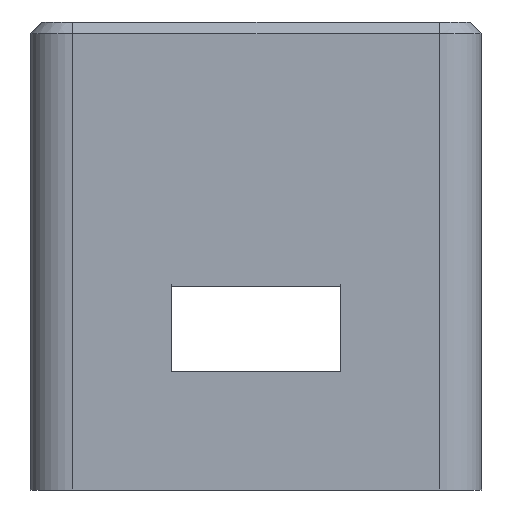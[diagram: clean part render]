
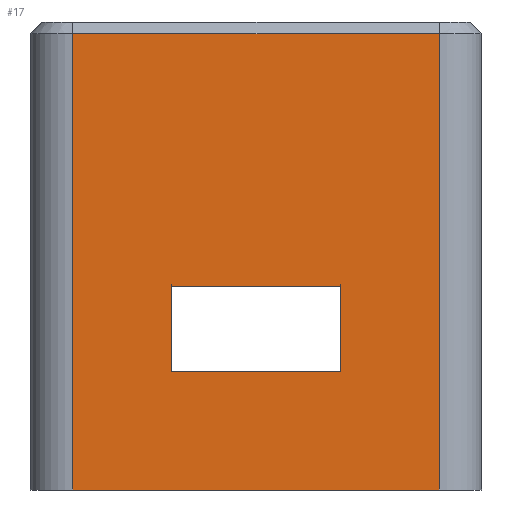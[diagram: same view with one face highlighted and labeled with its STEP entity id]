
A CAD part, left-side view. The second image highlights one B-rep face of the part: STEP entity #17.
In plain terms, the highlighted planar face has unit normal (-1, 0, 0).
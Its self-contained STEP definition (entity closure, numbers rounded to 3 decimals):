
#17 = ADVANCED_FACE('',(#18,#137),#32,.T.);
#18 = FACE_BOUND('',#19,.T.);
#19 = EDGE_LOOP('',(#20,#55,#83,#111));
#20 = ORIENTED_EDGE('',*,*,#21,.T.);
#21 = EDGE_CURVE('',#22,#24,#26,.T.);
#22 = VERTEX_POINT('',#23);
#23 = CARTESIAN_POINT('',(-80.,-15.6,16.2));
#24 = VERTEX_POINT('',#25);
#25 = CARTESIAN_POINT('',(-80.,-15.6,55.));
#26 = SURFACE_CURVE('',#27,(#31,#43),.PCURVE_S1.);
#27 = LINE('',#28,#29);
#28 = CARTESIAN_POINT('',(-80.,-15.6,16.2));
#29 = VECTOR('',#30,1.);
#30 = DIRECTION('',(0.,0.,1.));
#31 = PCURVE('',#32,#37);
#32 = PLANE('',#33);
#33 = AXIS2_PLACEMENT_3D('',#34,#35,#36);
#34 = CARTESIAN_POINT('',(-80.,-15.6,16.2));
#35 = DIRECTION('',(-1.,0.,0.));
#36 = DIRECTION('',(0.,1.,0.));
#37 = DEFINITIONAL_REPRESENTATION('',(#38),#42);
#38 = LINE('',#39,#40);
#39 = CARTESIAN_POINT('',(0.,0.));
#40 = VECTOR('',#41,1.);
#41 = DIRECTION('',(0.,-1.));
#42 = ( GEOMETRIC_REPRESENTATION_CONTEXT(2) 
PARAMETRIC_REPRESENTATION_CONTEXT() REPRESENTATION_CONTEXT('2D SPACE',''
  ) );
#43 = PCURVE('',#44,#49);
#44 = CYLINDRICAL_SURFACE('',#45,3.6);
#45 = AXIS2_PLACEMENT_3D('',#46,#47,#48);
#46 = CARTESIAN_POINT('',(-76.4,-15.6,16.2));
#47 = DIRECTION('',(-0.,-0.,-1.));
#48 = DIRECTION('',(1.,0.,0.));
#49 = DEFINITIONAL_REPRESENTATION('',(#50),#54);
#50 = LINE('',#51,#52);
#51 = CARTESIAN_POINT('',(-3.142,0.));
#52 = VECTOR('',#53,1.);
#53 = DIRECTION('',(-0.,-1.));
#54 = ( GEOMETRIC_REPRESENTATION_CONTEXT(2) 
PARAMETRIC_REPRESENTATION_CONTEXT() REPRESENTATION_CONTEXT('2D SPACE',''
  ) );
#55 = ORIENTED_EDGE('',*,*,#56,.T.);
#56 = EDGE_CURVE('',#24,#57,#59,.T.);
#57 = VERTEX_POINT('',#58);
#58 = CARTESIAN_POINT('',(-80.,15.6,55.));
#59 = SURFACE_CURVE('',#60,(#64,#71),.PCURVE_S1.);
#60 = LINE('',#61,#62);
#61 = CARTESIAN_POINT('',(-80.,-15.6,55.));
#62 = VECTOR('',#63,1.);
#63 = DIRECTION('',(0.,1.,0.));
#64 = PCURVE('',#32,#65);
#65 = DEFINITIONAL_REPRESENTATION('',(#66),#70);
#66 = LINE('',#67,#68);
#67 = CARTESIAN_POINT('',(0.,-38.8));
#68 = VECTOR('',#69,1.);
#69 = DIRECTION('',(1.,0.));
#70 = ( GEOMETRIC_REPRESENTATION_CONTEXT(2) 
PARAMETRIC_REPRESENTATION_CONTEXT() REPRESENTATION_CONTEXT('2D SPACE',''
  ) );
#71 = PCURVE('',#72,#77);
#72 = PLANE('',#73);
#73 = AXIS2_PLACEMENT_3D('',#74,#75,#76);
#74 = CARTESIAN_POINT('',(-79.5,-15.6,55.5));
#75 = DIRECTION('',(-0.707,0.,0.707));
#76 = DIRECTION('',(-0.,-1.,-0.));
#77 = DEFINITIONAL_REPRESENTATION('',(#78),#82);
#78 = LINE('',#79,#80);
#79 = CARTESIAN_POINT('',(-0.,-0.707));
#80 = VECTOR('',#81,1.);
#81 = DIRECTION('',(-1.,0.));
#82 = ( GEOMETRIC_REPRESENTATION_CONTEXT(2) 
PARAMETRIC_REPRESENTATION_CONTEXT() REPRESENTATION_CONTEXT('2D SPACE',''
  ) );
#83 = ORIENTED_EDGE('',*,*,#84,.F.);
#84 = EDGE_CURVE('',#85,#57,#87,.T.);
#85 = VERTEX_POINT('',#86);
#86 = CARTESIAN_POINT('',(-80.,15.6,16.2));
#87 = SURFACE_CURVE('',#88,(#92,#99),.PCURVE_S1.);
#88 = LINE('',#89,#90);
#89 = CARTESIAN_POINT('',(-80.,15.6,16.2));
#90 = VECTOR('',#91,1.);
#91 = DIRECTION('',(0.,0.,1.));
#92 = PCURVE('',#32,#93);
#93 = DEFINITIONAL_REPRESENTATION('',(#94),#98);
#94 = LINE('',#95,#96);
#95 = CARTESIAN_POINT('',(31.2,0.));
#96 = VECTOR('',#97,1.);
#97 = DIRECTION('',(0.,-1.));
#98 = ( GEOMETRIC_REPRESENTATION_CONTEXT(2) 
PARAMETRIC_REPRESENTATION_CONTEXT() REPRESENTATION_CONTEXT('2D SPACE',''
  ) );
#99 = PCURVE('',#100,#105);
#100 = CYLINDRICAL_SURFACE('',#101,3.6);
#101 = AXIS2_PLACEMENT_3D('',#102,#103,#104);
#102 = CARTESIAN_POINT('',(-76.4,15.6,16.2));
#103 = DIRECTION('',(-0.,-0.,-1.));
#104 = DIRECTION('',(1.,0.,0.));
#105 = DEFINITIONAL_REPRESENTATION('',(#106),#110);
#106 = LINE('',#107,#108);
#107 = CARTESIAN_POINT('',(-3.142,0.));
#108 = VECTOR('',#109,1.);
#109 = DIRECTION('',(-0.,-1.));
#110 = ( GEOMETRIC_REPRESENTATION_CONTEXT(2) 
PARAMETRIC_REPRESENTATION_CONTEXT() REPRESENTATION_CONTEXT('2D SPACE',''
  ) );
#111 = ORIENTED_EDGE('',*,*,#112,.F.);
#112 = EDGE_CURVE('',#22,#85,#113,.T.);
#113 = SURFACE_CURVE('',#114,(#118,#125),.PCURVE_S1.);
#114 = LINE('',#115,#116);
#115 = CARTESIAN_POINT('',(-80.,0.,16.2));
#116 = VECTOR('',#117,1.);
#117 = DIRECTION('',(0.,1.,0.));
#118 = PCURVE('',#32,#119);
#119 = DEFINITIONAL_REPRESENTATION('',(#120),#124);
#120 = LINE('',#121,#122);
#121 = CARTESIAN_POINT('',(15.6,0.));
#122 = VECTOR('',#123,1.);
#123 = DIRECTION('',(1.,0.));
#124 = ( GEOMETRIC_REPRESENTATION_CONTEXT(2) 
PARAMETRIC_REPRESENTATION_CONTEXT() REPRESENTATION_CONTEXT('2D SPACE',''
  ) );
#125 = PCURVE('',#126,#131);
#126 = PLANE('',#127);
#127 = AXIS2_PLACEMENT_3D('',#128,#129,#130);
#128 = CARTESIAN_POINT('',(0.,0.,16.2));
#129 = DIRECTION('',(0.,0.,1.));
#130 = DIRECTION('',(1.,0.,-0.));
#131 = DEFINITIONAL_REPRESENTATION('',(#132),#136);
#132 = LINE('',#133,#134);
#133 = CARTESIAN_POINT('',(-80.,0.));
#134 = VECTOR('',#135,1.);
#135 = DIRECTION('',(0.,1.));
#136 = ( GEOMETRIC_REPRESENTATION_CONTEXT(2) 
PARAMETRIC_REPRESENTATION_CONTEXT() REPRESENTATION_CONTEXT('2D SPACE',''
  ) );
#137 = FACE_BOUND('',#138,.T.);
#138 = EDGE_LOOP('',(#139,#167,#194,#220));
#139 = ORIENTED_EDGE('',*,*,#140,.F.);
#140 = EDGE_CURVE('',#141,#143,#145,.T.);
#141 = VERTEX_POINT('',#142);
#142 = CARTESIAN_POINT('',(-80.,7.2,26.3));
#143 = VERTEX_POINT('',#144);
#144 = CARTESIAN_POINT('',(-80.,-7.2,26.3));
#145 = SURFACE_CURVE('',#146,(#150,#156),.PCURVE_S1.);
#146 = LINE('',#147,#148);
#147 = CARTESIAN_POINT('',(-80.,-7.8,26.3));
#148 = VECTOR('',#149,1.);
#149 = DIRECTION('',(-0.,-1.,-0.));
#150 = PCURVE('',#32,#151);
#151 = DEFINITIONAL_REPRESENTATION('',(#152),#155);
#152 = B_SPLINE_CURVE_WITH_KNOTS('',1,(#153,#154),.UNSPECIFIED.,.F.,.F.,
  (2,2),(-15.,-0.6),.PIECEWISE_BEZIER_KNOTS.);
#153 = CARTESIAN_POINT('',(22.8,-10.1));
#154 = CARTESIAN_POINT('',(8.4,-10.1));
#155 = ( GEOMETRIC_REPRESENTATION_CONTEXT(2) 
PARAMETRIC_REPRESENTATION_CONTEXT() REPRESENTATION_CONTEXT('2D SPACE',''
  ) );
#156 = PCURVE('',#157,#162);
#157 = PLANE('',#158);
#158 = AXIS2_PLACEMENT_3D('',#159,#160,#161);
#159 = CARTESIAN_POINT('',(-77.3,0.,26.3));
#160 = DIRECTION('',(0.,0.,-1.));
#161 = DIRECTION('',(-1.,0.,0.));
#162 = DEFINITIONAL_REPRESENTATION('',(#163),#166);
#163 = B_SPLINE_CURVE_WITH_KNOTS('',1,(#164,#165),.UNSPECIFIED.,.F.,.F.,
  (2,2),(-15.,-0.6),.PIECEWISE_BEZIER_KNOTS.);
#164 = CARTESIAN_POINT('',(2.7,7.2));
#165 = CARTESIAN_POINT('',(2.7,-7.2));
#166 = ( GEOMETRIC_REPRESENTATION_CONTEXT(2) 
PARAMETRIC_REPRESENTATION_CONTEXT() REPRESENTATION_CONTEXT('2D SPACE',''
  ) );
#167 = ORIENTED_EDGE('',*,*,#168,.F.);
#168 = EDGE_CURVE('',#169,#141,#171,.T.);
#169 = VERTEX_POINT('',#170);
#170 = CARTESIAN_POINT('',(-80.,7.2,33.524));
#171 = SURFACE_CURVE('',#172,(#176,#182),.PCURVE_S1.);
#172 = LINE('',#173,#174);
#173 = CARTESIAN_POINT('',(-80.,7.2,23.149));
#174 = VECTOR('',#175,1.);
#175 = DIRECTION('',(0.,0.,-1.));
#176 = PCURVE('',#32,#177);
#177 = DEFINITIONAL_REPRESENTATION('',(#178),#181);
#178 = B_SPLINE_CURVE_WITH_KNOTS('',1,(#179,#180),.UNSPECIFIED.,.F.,.F.,
  (2,2),(-11.251,-3.151),.PIECEWISE_BEZIER_KNOTS.);
#179 = CARTESIAN_POINT('',(22.8,-18.2));
#180 = CARTESIAN_POINT('',(22.8,-10.1));
#181 = ( GEOMETRIC_REPRESENTATION_CONTEXT(2) 
PARAMETRIC_REPRESENTATION_CONTEXT() REPRESENTATION_CONTEXT('2D SPACE',''
  ) );
#182 = PCURVE('',#183,#188);
#183 = PLANE('',#184);
#184 = AXIS2_PLACEMENT_3D('',#185,#186,#187);
#185 = CARTESIAN_POINT('',(-79.052,7.2,30.097));
#186 = DIRECTION('',(0.,1.,0.));
#187 = DIRECTION('',(0.,-0.,1.));
#188 = DEFINITIONAL_REPRESENTATION('',(#189),#193);
#189 = LINE('',#190,#191);
#190 = CARTESIAN_POINT('',(-6.949,-0.948));
#191 = VECTOR('',#192,1.);
#192 = DIRECTION('',(-1.,0.));
#193 = ( GEOMETRIC_REPRESENTATION_CONTEXT(2) 
PARAMETRIC_REPRESENTATION_CONTEXT() REPRESENTATION_CONTEXT('2D SPACE',''
  ) );
#194 = ORIENTED_EDGE('',*,*,#195,.F.);
#195 = EDGE_CURVE('',#196,#169,#198,.T.);
#196 = VERTEX_POINT('',#197);
#197 = CARTESIAN_POINT('',(-80.,-7.2,33.524));
#198 = SURFACE_CURVE('',#199,(#203,#209),.PCURVE_S1.);
#199 = LINE('',#200,#201);
#200 = CARTESIAN_POINT('',(-80.,-7.8,33.524));
#201 = VECTOR('',#202,1.);
#202 = DIRECTION('',(0.,1.,0.));
#203 = PCURVE('',#32,#204);
#204 = DEFINITIONAL_REPRESENTATION('',(#205),#208);
#205 = B_SPLINE_CURVE_WITH_KNOTS('',1,(#206,#207),.UNSPECIFIED.,.F.,.F.,
  (2,2),(0.6,15.),.PIECEWISE_BEZIER_KNOTS.);
#206 = CARTESIAN_POINT('',(8.4,-17.324));
#207 = CARTESIAN_POINT('',(22.8,-17.324));
#208 = ( GEOMETRIC_REPRESENTATION_CONTEXT(2) 
PARAMETRIC_REPRESENTATION_CONTEXT() REPRESENTATION_CONTEXT('2D SPACE',''
  ) );
#209 = PCURVE('',#210,#215);
#210 = PLANE('',#211);
#211 = AXIS2_PLACEMENT_3D('',#212,#213,#214);
#212 = CARTESIAN_POINT('',(-81.,0.,33.2));
#213 = DIRECTION('',(-0.309,0.,0.951));
#214 = DIRECTION('',(0.951,0.,0.309));
#215 = DEFINITIONAL_REPRESENTATION('',(#216),#219);
#216 = B_SPLINE_CURVE_WITH_KNOTS('',1,(#217,#218),.UNSPECIFIED.,.F.,.F.,
  (2,2),(0.6,15.),.PIECEWISE_BEZIER_KNOTS.);
#217 = CARTESIAN_POINT('',(1.051,-7.2));
#218 = CARTESIAN_POINT('',(1.051,7.2));
#219 = ( GEOMETRIC_REPRESENTATION_CONTEXT(2) 
PARAMETRIC_REPRESENTATION_CONTEXT() REPRESENTATION_CONTEXT('2D SPACE',''
  ) );
#220 = ORIENTED_EDGE('',*,*,#221,.T.);
#221 = EDGE_CURVE('',#196,#143,#222,.T.);
#222 = SURFACE_CURVE('',#223,(#227,#233),.PCURVE_S1.);
#223 = LINE('',#224,#225);
#224 = CARTESIAN_POINT('',(-80.,-7.2,23.149));
#225 = VECTOR('',#226,1.);
#226 = DIRECTION('',(0.,0.,-1.));
#227 = PCURVE('',#32,#228);
#228 = DEFINITIONAL_REPRESENTATION('',(#229),#232);
#229 = B_SPLINE_CURVE_WITH_KNOTS('',1,(#230,#231),.UNSPECIFIED.,.F.,.F.,
  (2,2),(-11.251,-3.151),.PIECEWISE_BEZIER_KNOTS.);
#230 = CARTESIAN_POINT('',(8.4,-18.2));
#231 = CARTESIAN_POINT('',(8.4,-10.1));
#232 = ( GEOMETRIC_REPRESENTATION_CONTEXT(2) 
PARAMETRIC_REPRESENTATION_CONTEXT() REPRESENTATION_CONTEXT('2D SPACE',''
  ) );
#233 = PCURVE('',#234,#239);
#234 = PLANE('',#235);
#235 = AXIS2_PLACEMENT_3D('',#236,#237,#238);
#236 = CARTESIAN_POINT('',(-79.052,-7.2,30.097));
#237 = DIRECTION('',(0.,1.,0.));
#238 = DIRECTION('',(0.,-0.,1.));
#239 = DEFINITIONAL_REPRESENTATION('',(#240),#244);
#240 = LINE('',#241,#242);
#241 = CARTESIAN_POINT('',(-6.949,-0.948));
#242 = VECTOR('',#243,1.);
#243 = DIRECTION('',(-1.,0.));
#244 = ( GEOMETRIC_REPRESENTATION_CONTEXT(2) 
PARAMETRIC_REPRESENTATION_CONTEXT() REPRESENTATION_CONTEXT('2D SPACE',''
  ) );
